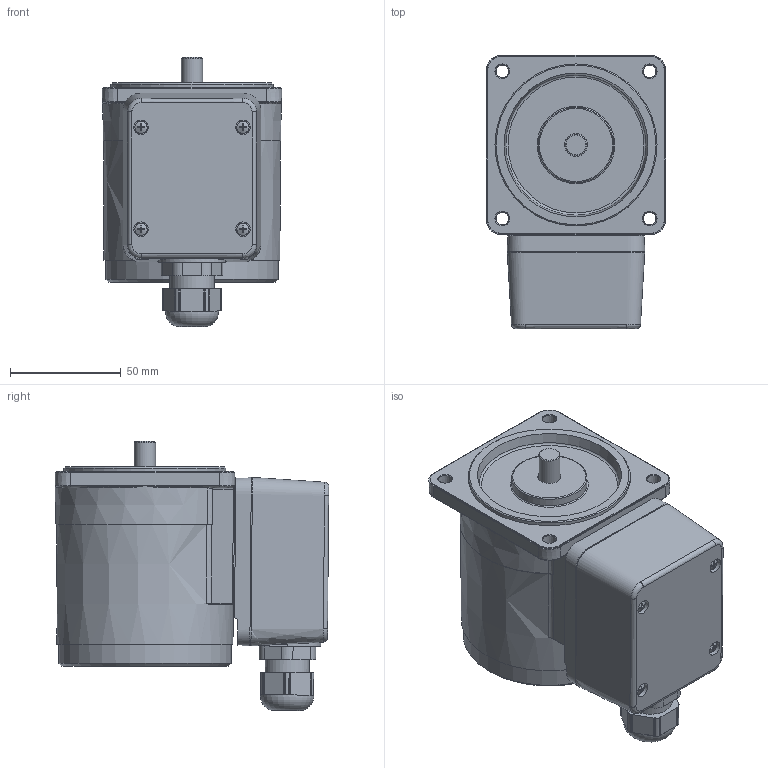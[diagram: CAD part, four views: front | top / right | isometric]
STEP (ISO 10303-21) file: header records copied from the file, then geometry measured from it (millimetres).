
FILE_DESCRIPTION (( 'STEP AP214' ), '1' );
FILE_NAME ('8IDG¤±-15W-T.STEP', '2025-01-13T01:48:18', ( '' ), ( '' ), 'SwSTEP 2.0', 'SolidWorks 2024', '' );
FILE_SCHEMA (( 'AUTOMOTIVE_DESIGN' ));
Length unit declared in the file: millimetre
Products named in the file (3): 8IDGㅁ-15W-T; TB6276; 8IDGㅁ-15W
Assembly tree (2 placements, depth 2):
  8IDGㅁ-15W-T
    8IDGㅁ-15W
    TB6276
Bounding box: 81 x 123.45 x 121.44 mm (x, y, z)
Volume: 650638.5 mm3; surface area: 61592.4 mm2
Topology: 2 solids, 2 shells, 344 faces, 835 edges, 532 vertices
Faces by surface type: plane 141, cylinder 91, torus 39, cone 39, bspline 32, sphere 2
Full cylindrical faces by diameter (mm): 5.5 x4, 6.6 x4, 8 x1, 9.6 x1, 10.5 x1, 13 x1, 20 x1, 34 x1, 73.1 x1
Entity records: 12154 total; most frequent: CARTESIAN_POINT 4515, DIRECTION 1564, ORIENTED_EDGE 1474, EDGE_CURVE 737, AXIS2_PLACEMENT_3D 631, VERTEX_POINT 516, EDGE_LOOP 471, FACE_OUTER_BOUND 388
